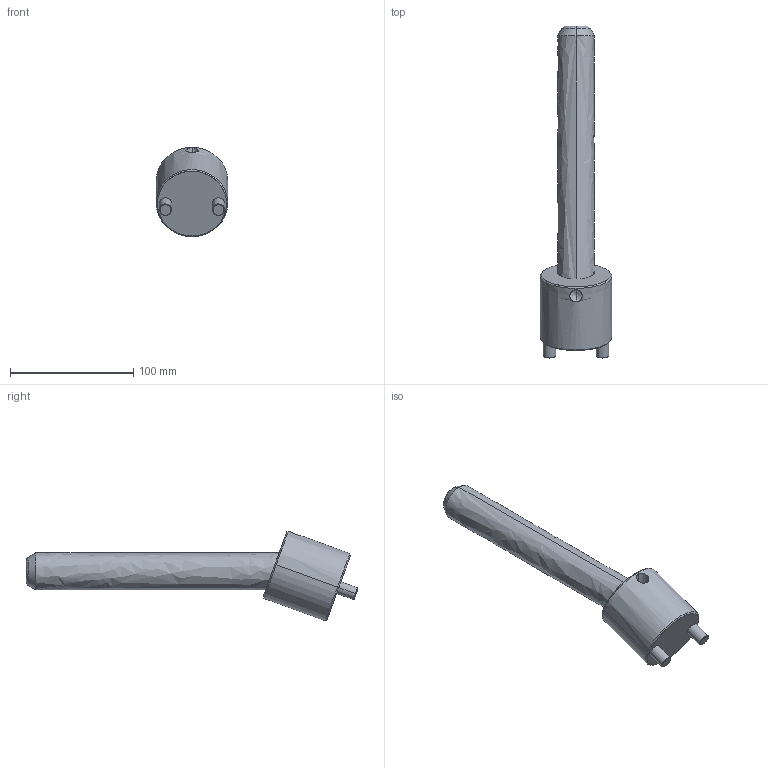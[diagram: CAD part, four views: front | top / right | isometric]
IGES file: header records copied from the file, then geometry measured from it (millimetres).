
Start section: START RECORD GO HERE.
Global section: file name: CI2030200.igs; native system: DASSAULT SYSTEMES CATIA V5 R20 - www.3ds.com; preprocessor: CATIA Version 5 Release 20 ; author: r.borello; organization: CFTORINO; date: 20190624.084633; units: millimetre
Bounding box: 58 x 269.37 x 72.63 mm (x, y, z)
Surface area: 44880.6 mm2 (no closed solid volume)
Topology: 0 solids, 0 shells, 39 faces, 162 edges, 160 vertices
Faces by surface type: revolution 32, plane 7
